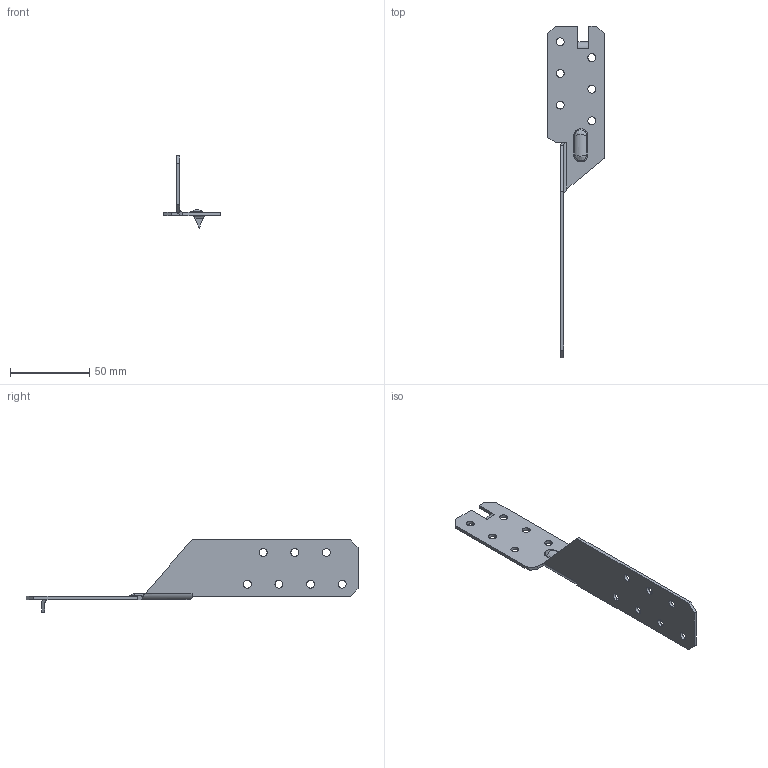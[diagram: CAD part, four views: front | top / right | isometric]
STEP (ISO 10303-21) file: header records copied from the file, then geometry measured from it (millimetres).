
FILE_DESCRIPTION (( 'STEP AP203' ), '1' );
FILE_NAME ('100502RLD.STEP', '2020-02-13T15:04:19', ( '' ), ( '' ), 'SwSTEP 2.0', 'SolidWorks 2013', '' );
FILE_SCHEMA (( 'CONFIG_CONTROL_DESIGN' ));
Length unit declared in the file: millimetre
Products named in the file (1): 100502RLD
Bounding box: 36 x 210 x 45.74 mm (x, y, z)
Volume: 14365.7 mm3; surface area: 15939.5 mm2
Topology: 1 solids, 1 shells, 80 faces, 210 edges, 134 vertices
Faces by surface type: cylinder 36, plane 34, bspline 10
Entity records: 3234 total; most frequent: CARTESIAN_POINT 1154, ORIENTED_EDGE 420, DIRECTION 398, EDGE_CURVE 210, AXIS2_PLACEMENT_3D 137, VERTEX_POINT 134, VECTOR 124, LINE 124
